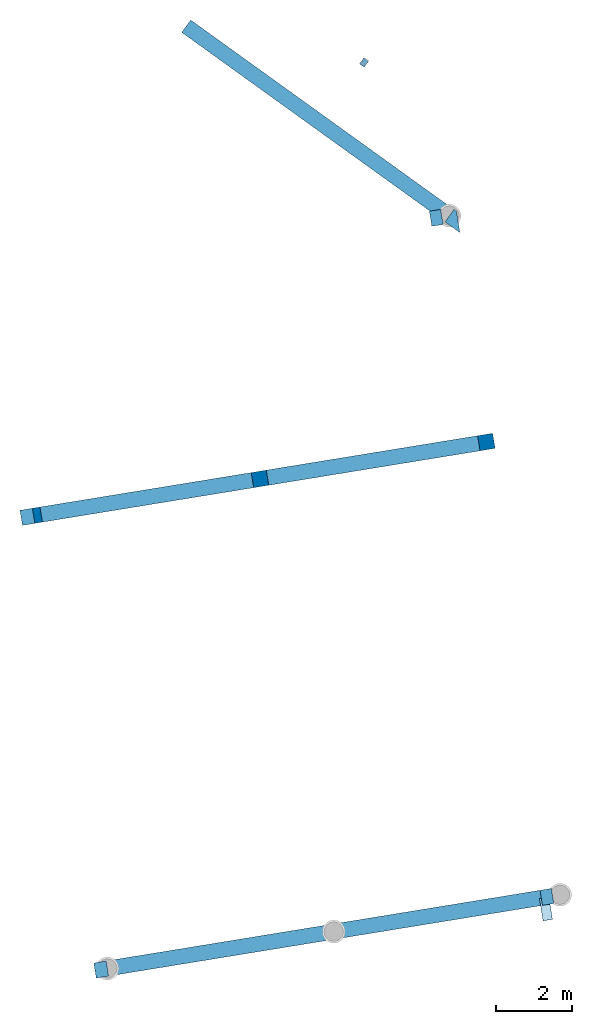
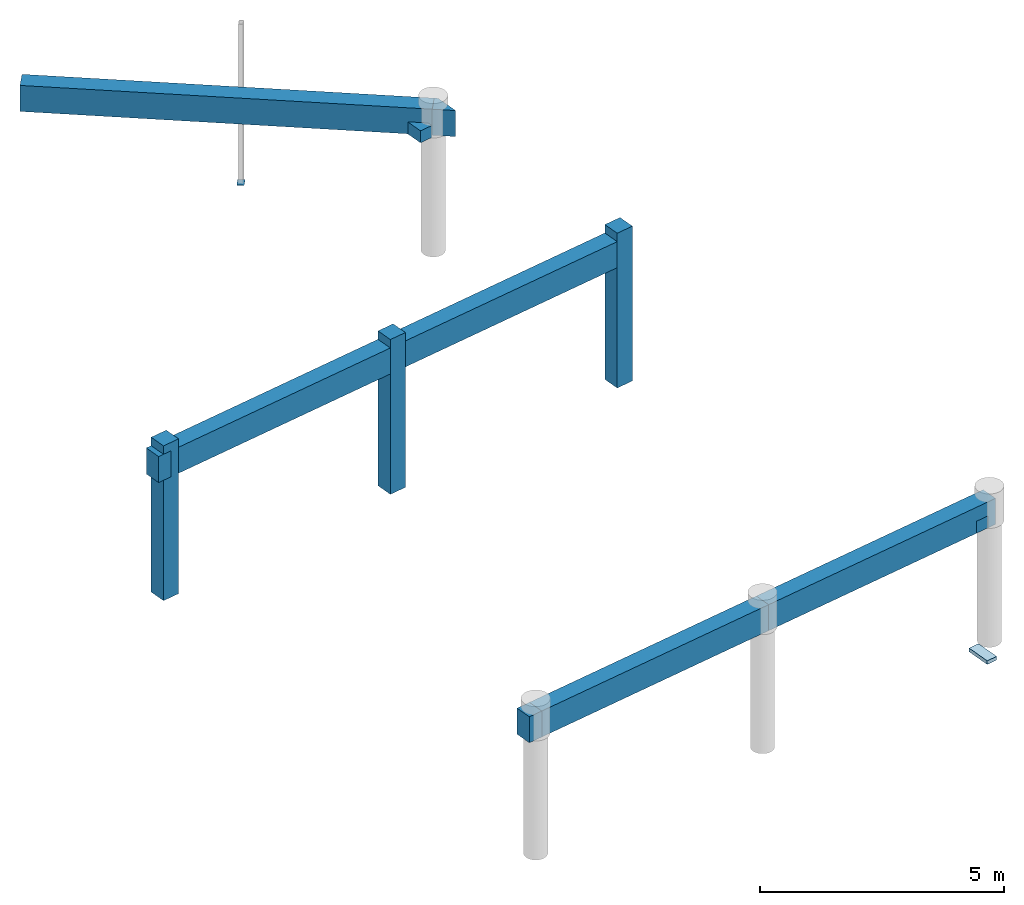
# One storey, part 3 of 4: 8 beams, 6 columns, 1 slab.
"""IFC2X3 building model written with IfcOpenShell, lengths in millimetres."""

import ifcopenshell
import ifcopenshell.guid

model = None  # the IFC model being written
_history = None  # IfcOwnerHistory: only IFC2X3 demands one
_inside = {}  # id of a spatial element -> (the spatial element, [elements in it])
_under = {}  # id of a project, library or spatial element -> (it, [spatial elements below it])
_declared = {}  # id of a project -> (the project, [libraries it declares])
_typed = {}  # id of a type object -> (the type object, [elements of that type])
_made_of = {}  # id of a material, layer set ... -> (it, [elements and type objects made of it])


def new_model(schema):
    """Start an empty IFC model of exactly this schema.

    Asked for "IFC4X3", IfcOpenShell would pick the latest addendum, in which some entities
    have other attributes; the version numbers below select the first issue.
    IFC2X3 requires an IfcOwnerHistory on every rooted entity: one is made here for all.
    """
    global model, _history
    if schema == "IFC4X3":
        model = ifcopenshell.file(schema_version=(4, 3, 0, 0))
    else:
        model = ifcopenshell.file(schema=schema)
    _inside.clear()
    _under.clear()
    _declared.clear()
    _typed.clear()
    _made_of.clear()
    _history = None
    if model.schema == "IFC2X3":
        org = make("IfcOrganization", Name="unknown")
        user = make(
            "IfcPersonAndOrganization",
            ThePerson=make("IfcPerson", FamilyName="unknown"),
            TheOrganization=org,
        )
        app = make(
            "IfcApplication",
            ApplicationDeveloper=org,
            Version="unknown",
            ApplicationFullName="unknown",
            ApplicationIdentifier="unknown",
        )
        _history = make(
            "IfcOwnerHistory",
            OwningUser=user,
            OwningApplication=app,
            ChangeAction="ADDED",
            CreationDate=0,
        )
    return model


def make(cls, **values):
    """One entity of the class cls with the attributes given. An attribute that is None is left unset."""
    return model.create_entity(
        cls, **{name: value for name, value in values.items() if value is not None}
    )


def entity(cls, *values):
    """Any entity or typed value of the class cls, its attributes in the order of the schema. None: left unset."""
    e = model.create_entity(cls)
    for i, value in enumerate(values):
        if value is not None:
            e[i] = value
    return e


def rooted(cls, **values):
    """An entity with a GlobalId (a new one), such as an element, a storey or a relation."""
    return make(cls, GlobalId=ifcopenshell.guid.new(), OwnerHistory=_history, **values)


def si_unit(unit_type, name, prefix=None):
    """IfcSIUnit, for example si_unit("LENGTHUNIT", "METRE", prefix="MILLI")."""
    return make("IfcSIUnit", UnitType=unit_type, Prefix=prefix, Name=name)


def converted_unit(unit_type, name, factor, base, dimensions=None, offset=None):
    """IfcConversionBasedUnit, such as the inch: factor (a typed value) times the base unit."""
    return make(
        "IfcConversionBasedUnit"
        if offset is None
        else "IfcConversionBasedUnitWithOffset",
        ConversionOffset=offset,
        Dimensions=None
        if dimensions is None
        else entity("IfcDimensionalExponents", *dimensions),
        UnitType=unit_type,
        Name=name,
        ConversionFactor=make(
            "IfcMeasureWithUnit", ValueComponent=factor, UnitComponent=base
        ),
    )


def derived_unit(unit_type, elements):
    """IfcDerivedUnit: a product of units, each with its exponent."""
    return make(
        "IfcDerivedUnit",
        Elements=[
            make("IfcDerivedUnitElement", Unit=unit, Exponent=power)
            for unit, power in elements
        ],
        UnitType=unit_type,
    )


def assignment(units):
    """IfcUnitAssignment: the units of a project."""
    return None if units is None else make("IfcUnitAssignment", Units=units)


def point(xyz):
    """IfcCartesianPoint."""
    return None if xyz is None else make("IfcCartesianPoint", Coordinates=xyz)


def direction(xyz):
    """IfcDirection."""
    return None if xyz is None else make("IfcDirection", DirectionRatios=xyz)


def frame(location, z_axis=None, x_axis=None):
    """IfcAxis2Placement3D, a coordinate frame: its origin and axes. An axis left out is left unset."""
    return make(
        "IfcAxis2Placement3D",
        Location=point(location),
        Axis=direction(z_axis),
        RefDirection=direction(x_axis),
    )


def frame_2d(location, x_axis=None):
    """IfcAxis2Placement2D, a coordinate frame in the plane: its origin and x axis."""
    return make(
        "IfcAxis2Placement2D", Location=point(location), RefDirection=direction(x_axis)
    )


def origin():
    """The frame at (0, 0, 0) with its axes left unset."""
    return frame((0.0, 0.0, 0.0))


def origin_with_axes():
    """The frame at (0, 0, 0) with the z axis (0, 0, 1) and the x axis (1, 0, 0) written out."""
    return frame((0.0, 0.0, 0.0), z_axis=(0.0, 0.0, 1.0), x_axis=(1.0, 0.0, 0.0))


def place(relative_to, where):
    """IfcLocalPlacement: puts the frame where relative to a parent placement (None: the world)."""
    return make(
        "IfcLocalPlacement", PlacementRelTo=relative_to, RelativePlacement=where
    )


def context(
    kind, dimensions, precision=None, world=None, true_north=None, identifier=None
):
    """IfcGeometricRepresentationContext, for example the 3D "Model" context."""
    return make(
        "IfcGeometricRepresentationContext",
        ContextIdentifier=identifier,
        ContextType=kind,
        CoordinateSpaceDimension=dimensions,
        Precision=precision,
        WorldCoordinateSystem=world,
        TrueNorth=true_north,
    )


def subcontext(parent, identifier, kind, view, scale=None):
    """IfcGeometricRepresentationSubContext, for example "Body" below "Model"."""
    return make(
        "IfcGeometricRepresentationSubContext",
        ContextIdentifier=identifier,
        ContextType=kind,
        ParentContext=parent,
        TargetScale=scale,
        TargetView=view,
    )


def project(units=None, contexts=None):
    """IfcProject with its units and contexts."""
    return rooted(
        "IfcProject",
        Name="project",
        RepresentationContexts=contexts,
        UnitsInContext=assignment(units),
    )


def spatial(cls, under=None, at=None, **own):
    """A site, building, storey or space (cls), placed at a placement, below another one or the project."""
    s = rooted(cls, ObjectPlacement=at, **own)
    if under is not None:
        _under.setdefault(under.id(), (under, []))[1].append(s)
    return s


def profile(cls, at=None, kind="AREA", **sizes):
    """A parametric profile (cls). Its sizes go by their IFC names, for example OverallWidth=200.0."""
    return make(cls, ProfileType=kind, Position=at, **sizes)


def rectangle(**sizes):
    """IfcRectangleProfileDef."""
    return profile("IfcRectangleProfileDef", **sizes)


def extrude(swept, where, along, depth):
    """IfcExtrudedAreaSolid: the profile swept, set in the frame where, extruded along a direction by depth."""
    return make(
        "IfcExtrudedAreaSolid",
        SweptArea=swept,
        Position=where,
        ExtrudedDirection=direction(along),
        Depth=depth,
    )


def faces_of(points, faces, orient=None, outer=None):
    """IfcFace entities. A face is a list of loops; a loop is a list of indices into points, from 0.

    orient and outer hold one flag for each loop. By default every Orientation is true, the
    first loop of a face is its IfcFaceOuterBound and the others are IfcFaceBound.
    """
    made = []
    for i, loops in enumerate(faces):
        bounds = []
        for j, loop in enumerate(loops):
            is_outer = j == 0 if outer is None else outer[i][j]
            bounds.append(
                make(
                    "IfcFaceOuterBound" if is_outer else "IfcFaceBound",
                    Bound=make("IfcPolyLoop", Polygon=[points[k] for k in loop]),
                    Orientation=True if orient is None else orient[i][j],
                )
            )
        made.append(make("IfcFace", Bounds=bounds))
    return made


def faceted_brep(points, faces, orient=None, outer=None, voids=None):
    """IfcFacetedBrep: a solid bounded by flat faces; with voids (closed shells), ...WithVoids."""
    shared = [point(p) for p in points]
    hull = make("IfcClosedShell", CfsFaces=faces_of(shared, faces, orient, outer))
    if voids is None:
        return make("IfcFacetedBrep", Outer=hull)
    return make(
        "IfcFacetedBrepWithVoids",
        Outer=hull,
        Voids=[
            make(cls, CfsFaces=faces_of(shared, fs, o, b)) for cls, fs, o, b in voids
        ],
    )


def shape(context_of_items, identifier, shape_type, items):
    """IfcShapeRepresentation: the items that make up one representation, for example the "Body"."""
    return make(
        "IfcShapeRepresentation",
        ContextOfItems=context_of_items,
        RepresentationIdentifier=identifier,
        RepresentationType=shape_type,
        Items=items,
    )


def material(Name=None, Category=None):
    """IfcMaterial."""
    return make("IfcMaterial", Name=Name, Category=Category)


def made_of(thing, what):
    """Note that an element or type object is made of a material, layer set ...; save() writes the relation."""
    if what is not None:
        _made_of.setdefault(what.id(), (what, []))[1].append(thing)
    return thing


def type_object(cls, material=None, **own):
    """A type object (cls), such as IfcWallType, which elements share."""
    return made_of(rooted(cls, **own), material)


def element(
    cls,
    number,
    at=None,
    inside=None,
    cuts=None,
    type_object=None,
    material=None,
    context=None,
    identifier="Body",
    shape_type=None,
    held_by="IfcProductDefinitionShape",
    body=None,
    shapes=None,
    **own,
):
    """One element of the class cls, such as IfcWall. Its Tag is "e" and its number.

    at: its placement. inside: the storey or other place that contains it. cuts: it is an
    opening in that element (IfcRelVoidsElement). A single representation is given by context,
    identifier, shape_type and body (its items); several are given by shapes. held_by: the class
    of the entity that holds the representations. save() writes the other relations.
    """
    e = rooted(cls, Tag="e%d" % number, ObjectPlacement=at, **own)
    if body is not None:
        shapes = [shape(context, identifier, shape_type, body)]
    if shapes is not None:
        e.Representation = make(held_by, Representations=shapes)
    if inside is not None:
        _inside.setdefault(inside.id(), (inside, []))[1].append(e)
    if cuts is not None:
        rooted(
            "IfcRelVoidsElement", RelatingBuildingElement=cuts, RelatedOpeningElement=e
        )
    if type_object is not None:
        _typed.setdefault(type_object.id(), (type_object, []))[1].append(e)
    return made_of(e, material)


def aggregate(whole, parts):
    """IfcRelAggregates: a whole, such as a stair, and the parts it consists of."""
    return rooted("IfcRelAggregates", RelatingObject=whole, RelatedObjects=parts)


def save(model, path):
    """Write the relations noted so far, then the file.

    IfcRelAggregates (storeys below a building ...), IfcRelContainedInSpatialStructure (elements
    in a storey), IfcRelDefinesByType, IfcRelAssociatesMaterial and IfcRelDeclares: one each for
    every whole, place, type object, material and project.
    """
    for whole, parts in _under.values():
        aggregate(whole, parts)
    for where, things in _inside.values():
        rooted(
            "IfcRelContainedInSpatialStructure",
            RelatedElements=things,
            RelatingStructure=where,
        )
    for kind, things in _typed.values():
        rooted("IfcRelDefinesByType", RelatedObjects=things, RelatingType=kind)
    for what, things in _made_of.values():
        rooted("IfcRelAssociatesMaterial", RelatedObjects=things, RelatingMaterial=what)
    for by, libraries in _declared.values():
        rooted("IfcRelDeclares", RelatingContext=by, RelatedDefinitions=libraries)
    model.write(path)


model = new_model("IFC2X3")

# Units and contexts
model_context = context("Model", 3, precision=0.01, world=origin(), true_north=direction((6.12323399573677e-17, 1.0)))
plan_context = context("Plan", 3, precision=1e-05, world=origin_with_axes())
body_context = subcontext(model_context, "Body", "Model", "MODEL_VIEW")
ifc_project = project(units=[converted_unit("PLANEANGLEUNIT", "DEGREE", entity("IfcPositiveLengthMeasure", 0.0174532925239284), si_unit("PLANEANGLEUNIT", "RADIAN"), dimensions=[0, 0, 0, 0, 0, 0, 0]), si_unit("AREAUNIT", "SQUARE_METRE"), si_unit("LENGTHUNIT", "METRE", prefix="MILLI"), si_unit("MASSUNIT", "GRAM", prefix="KILO"), si_unit("POWERUNIT", "WATT"), si_unit("PRESSUREUNIT", "PASCAL", prefix="KILO"), si_unit("FORCEUNIT", "NEWTON", prefix="KILO"), si_unit("ELECTRICVOLTAGEUNIT", "VOLT"), si_unit("ELECTRICCURRENTUNIT", "AMPERE"), si_unit("THERMODYNAMICTEMPERATUREUNIT", "DEGREE_CELSIUS"), si_unit("TIMEUNIT", "SECOND"), si_unit("VOLUMEUNIT", "CUBIC_METRE"), derived_unit("LINEARVELOCITYUNIT", [(si_unit("LENGTHUNIT", "METRE"), 1), (si_unit("TIMEUNIT", "SECOND"), -1)]), derived_unit("VOLUMETRICFLOWRATEUNIT", [(si_unit("VOLUMEUNIT", "CUBIC_METRE"), 1), (si_unit("TIMEUNIT", "SECOND"), -1)]), derived_unit("THERMALTRANSMITTANCEUNIT", [(si_unit("POWERUNIT", "WATT"), 1), (si_unit("THERMODYNAMICTEMPERATUREUNIT", "KELVIN"), -1), (si_unit("AREAUNIT", "SQUARE_METRE"), -1)]), derived_unit("SOUNDPRESSUREUNIT", [(si_unit("PRESSUREUNIT", "PASCAL"), 1)])], contexts=[model_context, plan_context])

# Site, building, storey
site_placement = place(None, frame((5.09380697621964e-08, 5.80416781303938e-08, 0.0), z_axis=(0.0, 0.0, 1.0), x_axis=(-0.160806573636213, 0.986985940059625, 0.0)))
site = spatial("IfcSite", under=ifc_project, at=site_placement, Name="Default", CompositionType="ELEMENT")
building_placement = place(site_placement, frame((0.0, 0.0, 0.0), z_axis=(0.0, 0.0, 1.0), x_axis=(1.0, -2.77555756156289e-17, 0.0)))
building = spatial("IfcBuilding", under=site, at=building_placement, CompositionType="ELEMENT")
storey_placement = place(building_placement, frame((0.0, 0.0, 55500.0), z_axis=(0.0, 0.0, 1.0), x_axis=(1.0, -2.77555756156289e-17, 0.0)))
storey = spatial("IfcBuildingStorey", under=building, at=storey_placement, Name="H02-Nivå F-3,5 m", CompositionType="ELEMENT", Elevation=55500.0)

# Columns
column_type_1 = type_object("IfcColumnType", Name="400*400", PredefinedType="NOTDEFINED")
column_1_placement = place(storey_placement, frame((0.0, 0.0, 0.0), z_axis=(0.0, 0.0, 1.0), x_axis=(1.0, -2.77555756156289e-17, 0.0)))
element("IfcColumn", 1, at=column_1_placement, inside=storey, type_object=column_type_1, Name="PLASSTØPTSØYLE", ObjectType="400*400", context=body_context, shape_type="Brep", body=[
    faceted_brep([(1004438.53099958, -384580.276417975, 3800.0), (1004838.53099959, -384580.274347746, 3800.0), (1004838.53098945, -384580.274347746, -70.0000010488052), (1004438.53098943, -384580.276417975, -69.9999999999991), (1004838.52891922, -384180.274347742, -70.0000010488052), (1004438.5289192, -384180.276417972, -69.9999999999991), (1004838.52892936, -384180.274347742, 3800.0), (1004438.52892935, -384180.276417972, 3800.0)], [[[0, 1, 2, 3]], [[3, 2, 4, 5]], [[6, 7, 5, 4]], [[7, 0, 3, 5]], [[1, 6, 4, 2]], [[7, 6, 1, 0]]], orient=[[False], [False], [False], [False], [False], [False]]),
])
column_2_placement = place(storey_placement, frame((0.0, 0.0, 0.0), z_axis=(0.0, 0.0, 1.0), x_axis=(1.0, -2.77555756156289e-17, 0.0)))
element("IfcColumn", 2, at=column_2_placement, inside=storey, type_object=column_type_1, Name="PLASSTØPTSØYLE", ObjectType="400*400", context=body_context, shape_type="Brep", body=[
    faceted_brep([(1004438.58402913, -396580.276418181, 3800.0), (1004838.58402914, -396580.274347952, 3800.0), (1004838.58401899, -396580.274347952, -70.0000010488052), (1004438.58401898, -396580.276418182, -69.9999999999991), (1004838.58194876, -396180.274347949, -70.0000010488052), (1004438.58194875, -396180.276418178, -69.9999999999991), (1004838.58195891, -396180.274347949, 3800.0), (1004438.5819589, -396180.276418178, 3800.0)], [[[0, 1, 2, 3]], [[3, 2, 4, 5]], [[6, 7, 5, 4]], [[7, 0, 3, 5]], [[1, 6, 4, 2]], [[7, 6, 1, 0]]], orient=[[False], [False], [False], [False], [False], [False]]),
])
column_3_placement = place(storey_placement, frame((0.0, 0.0, 0.0), z_axis=(0.0, 0.0, 1.0), x_axis=(1.0, -2.77555756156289e-17, 0.0)))
element("IfcColumn", 3, at=column_3_placement, inside=storey, type_object=column_type_1, Name="PLASSTØPTSØYLE", ObjectType="400*400", context=body_context, shape_type="Brep", body=[
    faceted_brep([(1004438.55751436, -390580.276418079, 3800.0), (1004838.55751437, -390580.274347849, 3800.0), (1004838.55750422, -390580.274347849, -70.0000010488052), (1004438.55750421, -390580.276418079, -69.9999999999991), (1004838.55543399, -390180.274347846, -70.0000010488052), (1004438.55543398, -390180.276418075, -69.9999999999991), (1004838.55544414, -390180.274347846, 3800.0), (1004438.55544413, -390180.276418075, 3800.0)], [[[0, 1, 2, 3]], [[3, 2, 4, 5]], [[6, 7, 5, 4]], [[7, 0, 3, 5]], [[1, 6, 4, 2]], [[7, 6, 1, 0]]], orient=[[False], [False], [False], [False], [False], [False]]),
])
column_type_2 = type_object("IfcColumnType", Name="300*400", PredefinedType="NOTDEFINED")
column_4_placement = place(storey_placement, frame((0.0, 0.0, 0.0), z_axis=(0.0, 0.0, 1.0), x_axis=(1.0, -2.77555756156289e-17, 0.0)))
element("IfcColumn", 4, at=column_4_placement, inside=storey, type_object=column_type_2, Name="PLASSTØPTSØYLE", ObjectType="300*400", context=body_context, shape_type="SweptSolid", body=[
    extrude(rectangle(XDim=300.000000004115, YDim=400.000000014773, at=frame_2d((0.0, 2.07904804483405e-10), x_axis=(1.0, 0.0))), frame((1010638.58144996, -396030.248874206, 2940.0), z_axis=(0.0, 0.0, 1.0), x_axis=(-5.14803742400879e-06, 1.0, 0.0)), (0.0, 0.0, 1.0), 300.000000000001),
])
column_5_placement = place(storey_placement, frame((0.0, 0.0, 0.0), z_axis=(0.0, 0.0, 1.0), x_axis=(1.0, -2.77555756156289e-17, 0.0)))
element("IfcColumn", 5, at=column_5_placement, inside=storey, type_object=column_type_2, Name="PLASSTØPTSØYLE", ObjectType="300*400", context=body_context, shape_type="SweptSolid", body=[
    extrude(rectangle(XDim=300.000000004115, YDim=400.000000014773, at=frame_2d((-3.46460637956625e-11, 0.0), x_axis=(1.0, 0.0))), frame((992638.581448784, -396030.328417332, 2940.0), z_axis=(0.0, 0.0, 1.0), x_axis=(-5.1480374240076e-06, 1.0, 0.0)), (0.0, 0.0, 1.0), 300.000000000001),
])
column_type_3 = type_object("IfcColumnType", Name="200*150", PredefinedType="NOTDEFINED")
column_6_placement = place(storey_placement, frame((0.0, 0.0, 0.0), z_axis=(0.0, 0.0, 1.0), x_axis=(1.0, -2.77555756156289e-17, 0.0)))
element("IfcColumn", 6, at=column_6_placement, inside=storey, type_object=column_type_3, Name="STÅLSØYLE", ObjectType="200*150", context=body_context, shape_type="SweptSolid", body=[
    extrude(rectangle(XDim=199.999999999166, YDim=150.000000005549, at=frame_2d((0.0, -8.82089068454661e-10), x_axis=(1.0, 0.0))), frame((1014955.7057001, -394821.679387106, -37.0000000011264), z_axis=(0.0, 0.0, 1.0), x_axis=(-0.707109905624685, 0.707103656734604, 0.0)), (0.0, 0.0, 1.0), 10.0000000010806),
])

# Beams
ifc_material = material(Name="CONCRETE/C55/67 171016")
beam_type = type_object("IfcBeamType", Name="650*400", PredefinedType="NOTDEFINED")
beam_1_placement = place(storey_placement, frame((0.0, 0.0, 0.0), z_axis=(0.0, 0.0, 1.0), x_axis=(1.0, -2.77555756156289e-17, 0.0)))
element("IfcBeam", 7, at=beam_1_placement, inside=storey, type_object=beam_type, material=ifc_material, Name="PLASSTØPTBJELKE", ObjectType="650*400", context=body_context, shape_type="SweptSolid", body=[
    extrude(rectangle(XDim=650.000000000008, YDim=5999.99991419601, at=frame_2d((8.66862137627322e-12, -3.45607986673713e-11), x_axis=(1.0, 0.0))), frame((992438.569283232, -393380.3292278, 3265.0), z_axis=(1.0, 4.26751170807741e-06, 0.0), x_axis=(0.0, 0.0, -1.0)), (0.0, 0.0, 1.0), 400.000000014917),
])
beam_2_placement = place(storey_placement, frame((0.0, 0.0, 0.0), z_axis=(0.0, 0.0, 1.0), x_axis=(1.0, -2.77555756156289e-17, 0.0)))
element("IfcBeam", 8, at=beam_2_placement, inside=storey, type_object=beam_type, material=ifc_material, Name="PLASSTØPTBJELKE", ObjectType="650*400", context=body_context, shape_type="SweptSolid", body=[
    extrude(rectangle(XDim=650.000000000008, YDim=5999.99991419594, at=frame_2d((8.66862137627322e-12, -6.91215973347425e-11), x_axis=(1.0, 0.0))), frame((992438.542768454, -387380.329227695, 3265.0), z_axis=(1.0, 4.26751170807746e-06, 0.0), x_axis=(0.0, 0.0, -1.0)), (0.0, 0.0, 1.0), 400.000000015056),
])
beam_3_placement = place(storey_placement, frame((0.0, 0.0, 0.0), z_axis=(0.0, 0.0, 1.0), x_axis=(1.0, -2.77555756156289e-17, 0.0)))
element("IfcBeam", 9, at=beam_3_placement, inside=storey, type_object=beam_type, material=ifc_material, Name="PLASSTØPTBJELKE", ObjectType="650*400", context=body_context, shape_type="SweptSolid", body=[
    extrude(rectangle(XDim=650.000000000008, YDim=5999.9999141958, at=frame_2d((8.66862137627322e-12, 0.0), x_axis=(1.0, 0.0))), frame((1004438.56928401, -393380.276199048, 3265.0), z_axis=(1.0, 4.26751170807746e-06, 0.0), x_axis=(0.0, 0.0, -1.0)), (0.0, 0.0, 1.0), 400.000000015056),
])
beam_4_placement = place(storey_placement, frame((0.0, 0.0, 0.0), z_axis=(0.0, 0.0, 1.0), x_axis=(1.0, -2.77555756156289e-17, 0.0)))
element("IfcBeam", 10, at=beam_4_placement, inside=storey, type_object=beam_type, material=ifc_material, Name="PLASSTØPTBJELKE", ObjectType="650*400", context=body_context, shape_type="SweptSolid", body=[
    extrude(rectangle(XDim=650.000000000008, YDim=5999.9999141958, at=frame_2d((8.66862137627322e-12, 0.0), x_axis=(1.0, 0.0))), frame((1004438.54276924, -387380.276198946, 3265.0), z_axis=(1.0, 4.26751170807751e-06, 0.0), x_axis=(0.0, 0.0, -1.0)), (0.0, 0.0, 1.0), 400.000000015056),
])
beam_5_placement = place(storey_placement, frame((0.0, 0.0, 0.0), z_axis=(0.0, 0.0, 1.0), x_axis=(1.0, -2.77555756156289e-17, 0.0)))
element("IfcBeam", 11, at=beam_5_placement, inside=storey, type_object=beam_type, material=ifc_material, Name="PLASSTØPTBJELKE", ObjectType="650*400", context=body_context, shape_type="SweptSolid", body=[
    extrude(rectangle(XDim=650.000000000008, YDim=400.000000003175, at=frame_2d((8.66862137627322e-12, 4.89990270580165e-11), x_axis=(1.0, 0.0))), frame((1010638.58428404, -396380.24718499, 3265.0), z_axis=(0.707103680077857, 0.707109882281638, 0.0), x_axis=(0.0, 0.0, -1.0)), (0.0, 0.0, 1.0), 8485.27926943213),
])
beam_6_placement = place(storey_placement, frame((0.0, 0.0, 0.0), z_axis=(0.0, 0.0, 1.0), x_axis=(1.0, -2.77555756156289e-17, 0.0)))
element("IfcBeam", 12, at=beam_6_placement, inside=storey, type_object=beam_type, Name="PLASSTØPTBJELKE", ObjectType="650*400", context=body_context, shape_type="Brep", body=[
    faceted_brep([(1004438.52765507, -384051.763990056, 3590.0), (1004838.52765509, -384051.763990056, 3590.0), (1004838.52905701, -384380.274448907, 3590.0), (1004438.529057, -384380.276155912, 3590.0), (1004838.52905701, -384380.274448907, 2939.99999999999), (1004438.529057, -384380.276155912, 2939.99999999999), (1004838.52765509, -384051.763990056, 2939.99999999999), (1004438.52765507, -384051.763990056, 2939.99999999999)], [[[0, 1, 2, 3]], [[3, 2, 4, 5]], [[6, 7, 5, 4]], [[7, 0, 3, 5]], [[1, 6, 4, 2]], [[7, 6, 1, 0]]], orient=[[False], [False], [False], [False], [False], [False]]),
])
beam_7_placement = place(storey_placement, frame((0.0, 0.0, 0.0), z_axis=(0.0, 0.0, 1.0), x_axis=(1.0, -2.77555756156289e-17, 0.0)))
element("IfcBeam", 13, at=beam_7_placement, inside=storey, type_object=beam_type, Name="PLASSTØPTBJELKE", ObjectType="650*400", context=body_context, shape_type="Brep", body=[
    faceted_brep([(1010722.59102973, -396579.084056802, 3590.0), (1010156.90808564, -396579.084056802, 3590.0), (1010497.16101987, -396238.828138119, 3590.0), (1010780.00497278, -396521.669610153, 3590.0), (1010722.59102973, -396579.084056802, 2939.99999999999), (1010780.00497278, -396521.669610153, 2939.99999999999), (1010156.90808564, -396579.084056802, 2939.99999999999), (1010497.16101987, -396238.828138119, 2939.99999999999)], [[[0, 1, 2, 3]], [[4, 0, 3, 5]], [[6, 4, 5, 7]], [[1, 6, 7, 2]], [[3, 2, 7, 5]], [[4, 6, 1, 0]]], orient=[[False], [False], [False], [False], [False], [False]]),
])
beam_8_placement = place(storey_placement, frame((0.0, 0.0, 0.0), z_axis=(0.0, 0.0, 1.0), x_axis=(1.0, -2.77555756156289e-17, 0.0)))
element("IfcBeam", 14, at=beam_8_placement, inside=storey, type_object=beam_type, Name="PLASSTØPTBJELKE", ObjectType="650*400", context=body_context, shape_type="Brep", body=[
    faceted_brep([(992438.527654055, -384051.763990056, 3590.0), (992838.527654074, -384051.763990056, 3590.0), (992838.529056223, -384380.327477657, 3590.0), (992438.529056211, -384380.329184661, 3590.0), (992838.529056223, -384380.327477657, 2939.99999999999), (992438.529056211, -384380.329184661, 2939.99999999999), (992838.527654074, -384051.763990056, 2939.99999999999), (992438.527654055, -384051.763990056, 2939.99999999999)], [[[0, 1, 2, 3]], [[3, 2, 4, 5]], [[6, 7, 5, 4]], [[7, 0, 3, 5]], [[1, 6, 4, 2]], [[7, 6, 1, 0]]], orient=[[False], [False], [False], [False], [False], [False]]),
])

# Slab
slab_type = type_object("IfcSlabType", Name="90*250", PredefinedType="FLOOR")
slab_placement = place(storey_placement, frame((0.0, 0.0, 0.0), z_axis=(0.0, 0.0, 1.0), x_axis=(1.0, -2.77555756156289e-17, 0.0)))
element("IfcSlab", 15, at=slab_placement, inside=storey, type_object=slab_type, Name="PLASSTØPTDEKKE", ObjectType="90*250", PredefinedType="FLOOR", context=body_context, shape_type="Brep", body=[
    faceted_brep([(992034.867643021, -396080.331009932, -99.9999218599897), (992034.867643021, -396080.330982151, -9.99992185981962), (992623.581631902, -396080.328469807, -9.99992283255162), (992623.581631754, -396080.328497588, -99.9999228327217), (992623.580565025, -395830.328469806, -10.0000000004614), (992623.580564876, -395830.328497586, -100.000000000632), (992034.867643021, -395830.330982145, -9.99999902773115), (992034.867643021, -395830.331009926, -99.9999990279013)], [[[0, 1, 2, 3]], [[3, 2, 4, 5]], [[6, 7, 5, 4]], [[7, 0, 3, 5]], [[1, 6, 4, 2]], [[7, 6, 1, 0]]], orient=[[False], [False], [False], [False], [False], [False]]),
])

save(model, "model.ifc")
